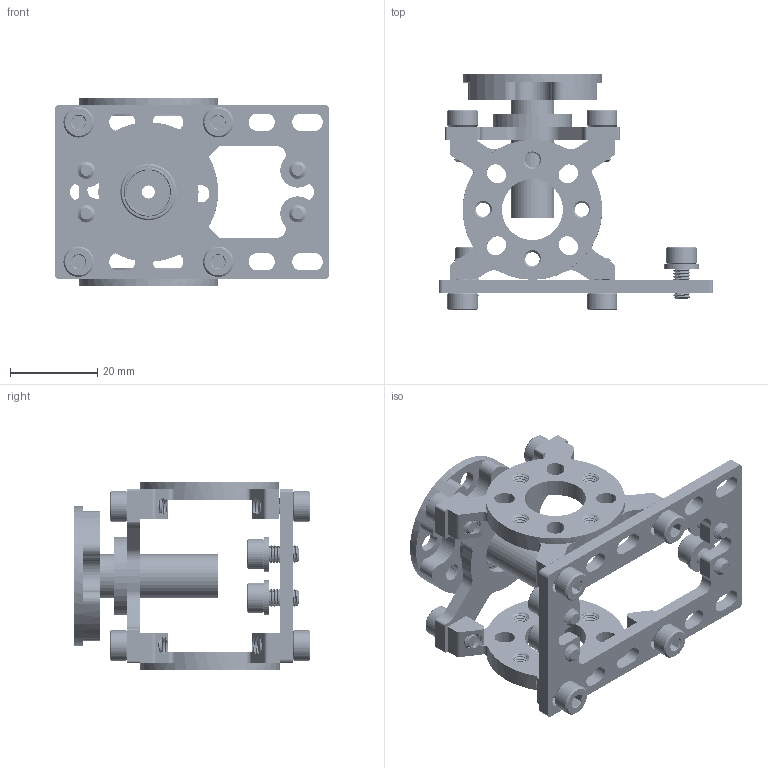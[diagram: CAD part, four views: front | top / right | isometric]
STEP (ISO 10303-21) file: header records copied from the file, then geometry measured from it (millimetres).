
FILE_DESCRIPTION (( 'STEP AP203' ), '1' );
FILE_NAME ('3202-0001-2501.STEP', '2018-08-14T02:32:01', ( '' ), ( '' ), 'SwSTEP 2.0', 'SolidWorks 2016', '' );
FILE_SCHEMA (( 'CONFIG_CONTROL_DESIGN' ));
Length unit declared in the file: millimetre
Products named in the file (9): 1600-0415-0010; 2801-0004-0008_91166A230; 1603-0032-0010 assembly; 1910-0025-1033; 1603-0032-0010; 1221-0032-0001; 2800-0004-0008_90128A207; 3202-0001-2501; 1801-0040-0001
Assembly tree (23 placements, depth 3):
  3202-0001-2501
    1801-0040-0001
    1221-0032-0001  x2
    1603-0032-0010 assembly
      1603-0032-0010
      1600-0415-0010
    1910-0025-1033
    2801-0004-0008_91166A230  x4
    2800-0004-0008_90128A207  x12
Bounding box: 63 x 54.24 x 43 mm (x, y, z)
Volume: 19297.7 mm3; surface area: 23181.8 mm2
Topology: 24 solids, 24 shells, 2388 faces, 6580 edges, 4273 vertices
Faces by surface type: cylinder 1578, plane 373, cone 301, bspline 116, torus 20
Entity records: 104668 total; most frequent: CARTESIAN_POINT 76079, ORIENTED_EDGE 6516, DIRECTION 5044, EDGE_CURVE 3258, VERTEX_POINT 2131, AXIS2_PLACEMENT_3D 1877, LINE 1290, VECTOR 1290
